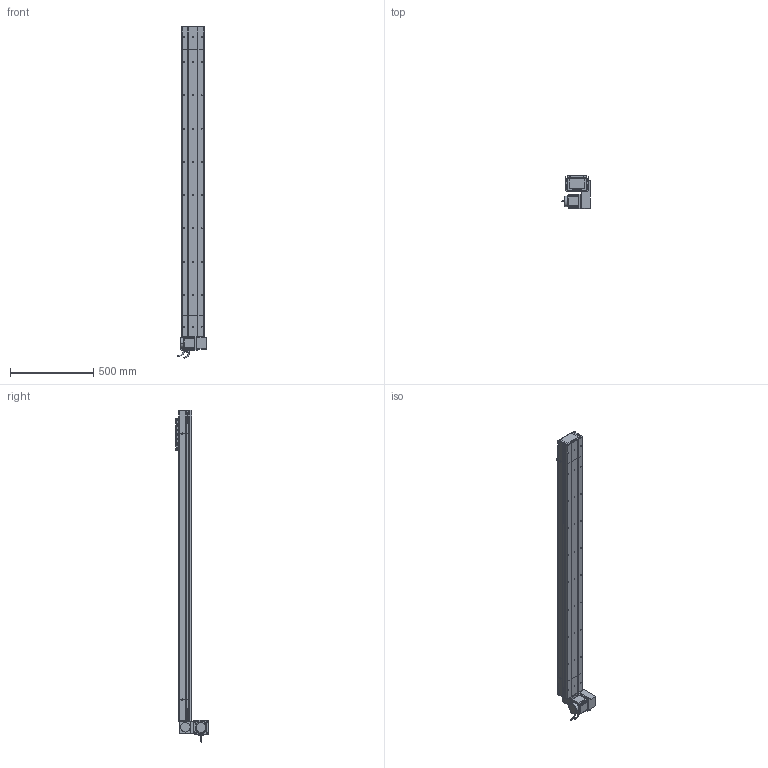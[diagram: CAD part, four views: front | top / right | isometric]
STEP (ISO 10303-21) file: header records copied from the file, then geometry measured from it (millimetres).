
FILE_DESCRIPTION (( 'STEP AP214' ), '1' );
FILE_NAME ('D14 CBH S1600 LU.STEP', '2010-06-30T06:57:08', ( 'Conseil Régional Haute-Normandie' ), ( 'Conseil Régional Haute-Normandie' ), 'SwSTEP 2.0', 'SolidWorks 2010', '' );
FILE_SCHEMA (( 'AUTOMOTIVE_DESIGN' ));
Length unit declared in the file: millimetre
Products named in the file (28): GMB 90 70 310; plaque de bout Head D14 CBH; corps GMB 90 70 310; Support moteur Head D14 CBH; plaque fermeture Head D14 CBH; avant GMB 90 70 310; vis CHC M7; Vis CHC M8; plaque de maintient CBH D14; couvercle Head D14 CBH; Conecteur_Default; Conecteur2_Default; codeur GMB 90 70 310; corps CBH S1600; Course CBH S1600; D14 CBH S1600 LU; plaque de bout tail CBH d14; Tail CBH D14 B; couvercle CBH S1600; chariot D14; corps tail  CBH d14 B; couvercle tail CBH D14; vis CHC M5; chariot supérieur D14; charriot inférieur D14; corps Head D14 CBH; Head D14 CBH; Head D14 CBH LU
Assembly tree (51 placements, depth 4):
  D14 CBH S1600 LU
    Head D14 CBH LU
      plaque fermeture Head D14 CBH  x3
      GMB 90 70 310
        avant GMB 90 70 310
        Conecteur2_Default
        corps GMB 90 70 310
        codeur GMB 90 70 310
        Conecteur_Default
      Head D14 CBH
        vis CHC M7  x4
        Vis CHC M8  x2
        couvercle Head D14 CBH
        plaque de bout Head D14 CBH
        plaque de maintient CBH D14
        corps Head D14 CBH
      Support moteur Head D14 CBH
    Tail CBH D14 B
      vis CHC M7  x4
      couvercle tail CBH D14
      Vis CHC M8  x2
      plaque de bout tail CBH d14
      corps tail  CBH d14 B
      plaque de maintient CBH D14
    chariot D14
      vis CHC M5  x4
      vis CHC M7  x8
      chariot supérieur D14
      charriot inférieur D14
    Course CBH S1600
      couvercle CBH S1600
      corps CBH S1600
Bounding box: 171.5 x 195.75 x 1995.95 mm (x, y, z)
Volume: 6014604.4 mm3; surface area: 1945817.5 mm2
Topology: 51 solids, 51 shells, 2480 faces, 6406 edges, 4210 vertices
Faces by surface type: plane 1371, bspline 538, cylinder 458, torus 61, cone 48, sphere 4
Entity records: 109905 total; most frequent: CARTESIAN_POINT 58274, ORIENTED_EDGE 11108, DIRECTION 8427, EDGE_CURVE 5554, VECTOR 3685, LINE 3685, VERTEX_POINT 3674, EDGE_LOOP 2376
